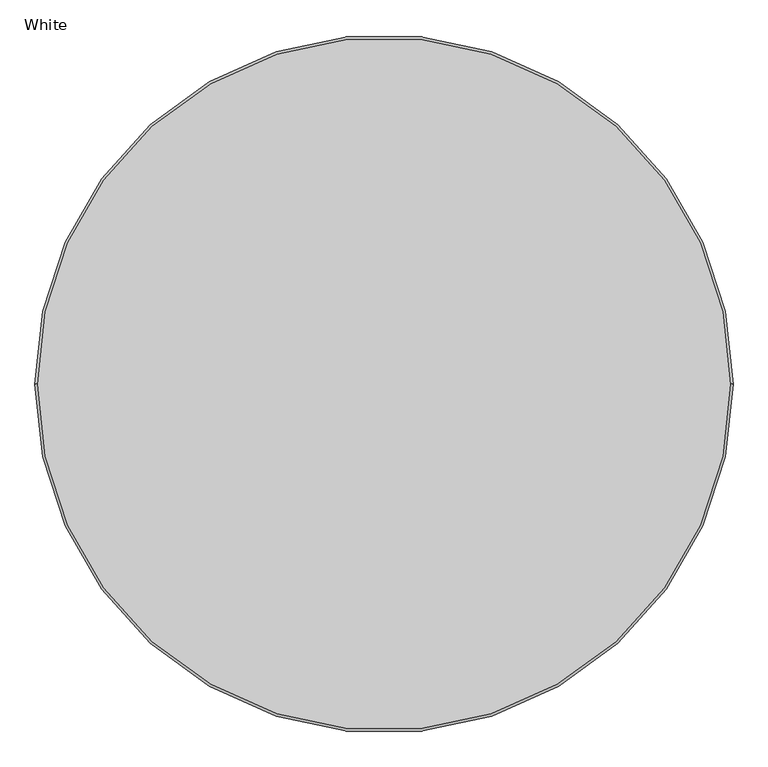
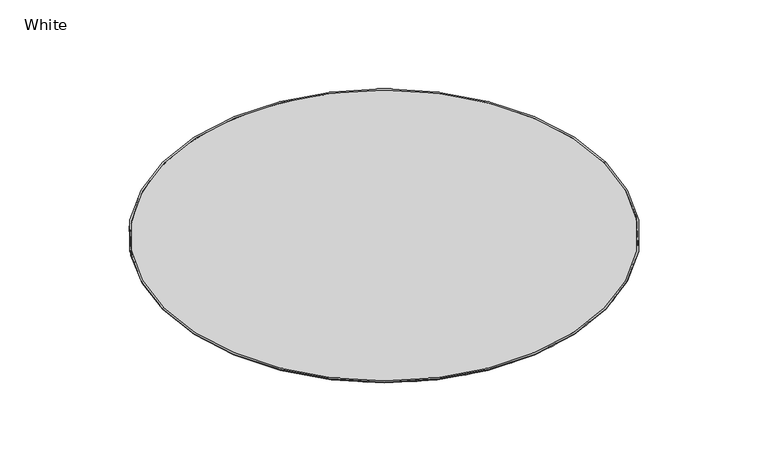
"""IFC4 building model written with IfcOpenShell, lengths in millimetres: furniture geometry, Wisp Rug : White."""

from ifc_helpers import new_model, si_unit, point, frame, origin, origin_with_axes, origin_2d, place, context, project, spatial, polyline, circle_curve, ellipse_curve, trimmed, segment, composite_curve, outline, extrude, source, transform, mapped, element, save
from ifc_brep_helpers import plane_surface, cylinder_surface, revolved_surface, advanced_brep


def white_f19bfe0b(model_context):
    return source(origin(), model_context, "Body", "SolidModel", [
        advanced_brep(
        [(-1495.0, 0.0, 5.0), (1495.0, 0.0, 5.0), (1495.0, 0.0, 0.0), (-1495.0, 0.0, 0.0), (-1505.0, 0.0, 5.0), (1505.0, 0.0, 5.0), (-1505.0, 0.0, 0.0), (1505.0, 0.0, 0.0)],
        [
            (0, 1, circle_curve(frame((0.0, 0.0, 5.0), z_axis=(0.0, 0.0, 1.0), x_axis=(1.0, 0.0, 0.0)), 1495.0)),
            (1, 2),
            (2, 3, circle_curve(frame((0.0, 0.0, 0.0), z_axis=(0.0, 0.0, -1.0), x_axis=(1.0, 0.0, 0.0)), 1495.0)),
            (3, 0),
            (4, 5, circle_curve(frame((0.0, 0.0, 5.0), z_axis=(0.0, 0.0, 1.0), x_axis=(1.0, 0.0, 0.0)), 1505.0)),
            (5, 1, circle_curve(frame((1500.0, 0.0, 5.0), z_axis=(0.0, -1.0, 0.0), x_axis=(1.0, 0.0, 0.0)), 5.0)),
            (0, 4, circle_curve(frame((-1500.0, 0.0, 5.0), z_axis=(0.0, -1.0, 0.0), x_axis=(-1.0, 0.0, 0.0)), 5.0)),
            (6, 7, circle_curve(origin_with_axes(), 1505.0)),
            (7, 5),
            (4, 6),
            (6, 7, circle_curve(frame((0.0, 0.0, 0.0), z_axis=(0.0, 0.0, -1.0), x_axis=(-1.0, 0.0, 0.0)), 1505.0)),
            (2, 3, circle_curve(frame((0.0, 0.0, 0.0), z_axis=(0.0, 0.0, 1.0), x_axis=(-1.0, 0.0, 0.0)), 1495.0)),
            (1, 0, circle_curve(frame((0.0, 0.0, 5.0), z_axis=(0.0, 0.0, 1.0), x_axis=(-1.0, 0.0, 0.0)), 1495.0)),
            (5, 4, circle_curve(frame((0.0, 0.0, 5.0), z_axis=(0.0, 0.0, 1.0), x_axis=(-1.0, 0.0, 0.0)), 1505.0)),
        ],
        [
            revolved_surface(polyline([(1495.0, 0.0, 0.0), (1495.0, 0.0, 5.0)]), (0.0, 0.0, 5.0), (0.0, 0.0, -1.0)),
            revolved_surface(trimmed(ellipse_curve(frame((1500.0, 0.0, 5.0), z_axis=(0.0, 1.0, 0.0), x_axis=(1.0, 0.0, 0.0)), 5.0, 5.0), [point((1495.0, 0.0, 5.0))], [point((1505.0, 0.0, 5.0))], True, "CARTESIAN"), (0.0, 0.0, 5.0), (0.0, 0.0, -1.0)),
            cylinder_surface(frame((0.0, 0.0, 5.0), z_axis=(0.0, 0.0, -1.0), x_axis=(1.0, 0.0, 0.0)), 1505.0),
            plane_surface(frame((0.0, 0.0, 0.0), z_axis=(0.0, 0.0, -1.0), x_axis=(-1.0, 0.0, 0.0))),
            revolved_surface(polyline([(-1495.0, 0.0, 0.0), (-1495.0, 0.0, 5.0)]), (0.0, 0.0, 5.0), (0.0, 0.0, -1.0)),
            revolved_surface(trimmed(ellipse_curve(frame((-1500.0, 0.0, 5.0), z_axis=(0.0, -1.0, 0.0), x_axis=(-1.0, 0.0, 0.0)), 5.0, 5.0), [point((-1495.0, 0.0, 5.0))], [point((-1505.0, 0.0, 5.0))], True, "CARTESIAN"), (0.0, 0.0, 5.0), (0.0, 0.0, -1.0)),
            cylinder_surface(frame((0.0, 0.0, 5.0), z_axis=(0.0, 0.0, -1.0), x_axis=(-1.0, 0.0, 0.0)), 1505.0),
        ],
        [
            (0, [[1, 2, 3, 4]]),
            (1, [[5, 6, -1, 7]]),
            (2, [[8, 9, -5, 10]]),
            (3, [[11, -8], [12, -3]]),
            (4, [[13, -4, -12, -2]]),
            (5, [[14, -7, -13, -6]]),
            (6, [[-11, -10, -14, -9]]),
        ],
    ),
        extrude(outline(composite_curve([segment(trimmed(circle_curve(origin_2d(), 1500.0), [point((-1500.0, 0.0))], [point((1500.0, 0.0))], False, "CARTESIAN"), True, "CONTINUOUS"), segment(trimmed(circle_curve(origin_2d(), 1500.0), [point((1500.0, 0.0))], [point((-1500.0, 0.0))], False, "CARTESIAN"), True, "CONTINUOUS")], self_intersect=False)), origin_with_axes(), (0.0, 0.0, 1.0), 5.0),
    ])


if __name__ == "__main__":
    model = new_model("IFC4")
    model_context = context("Model", 3, world=origin())
    ifc_project = project(units=[si_unit("LENGTHUNIT", "METRE", prefix="MILLI")], contexts=[model_context])
    site = spatial("IfcSite", under=ifc_project)
    building = spatial("IfcBuilding", under=site)
    placement = place(None, origin())
    white_shape = white_f19bfe0b(model_context)
    element("IfcFurniture", 1, ObjectType="Wisp Rug : White", at=placement, inside=building, context=model_context, shape_type="MappedRepresentation", body=[
        mapped(white_shape, transform((0.0, 0.0, 0.0), x_axis=(1.0, 0.0, 0.0), y_axis=(0.0, 1.0, 0.0), z_axis=(0.0, 0.0, 1.0))),
    ])
    save(model, "model.ifc")
